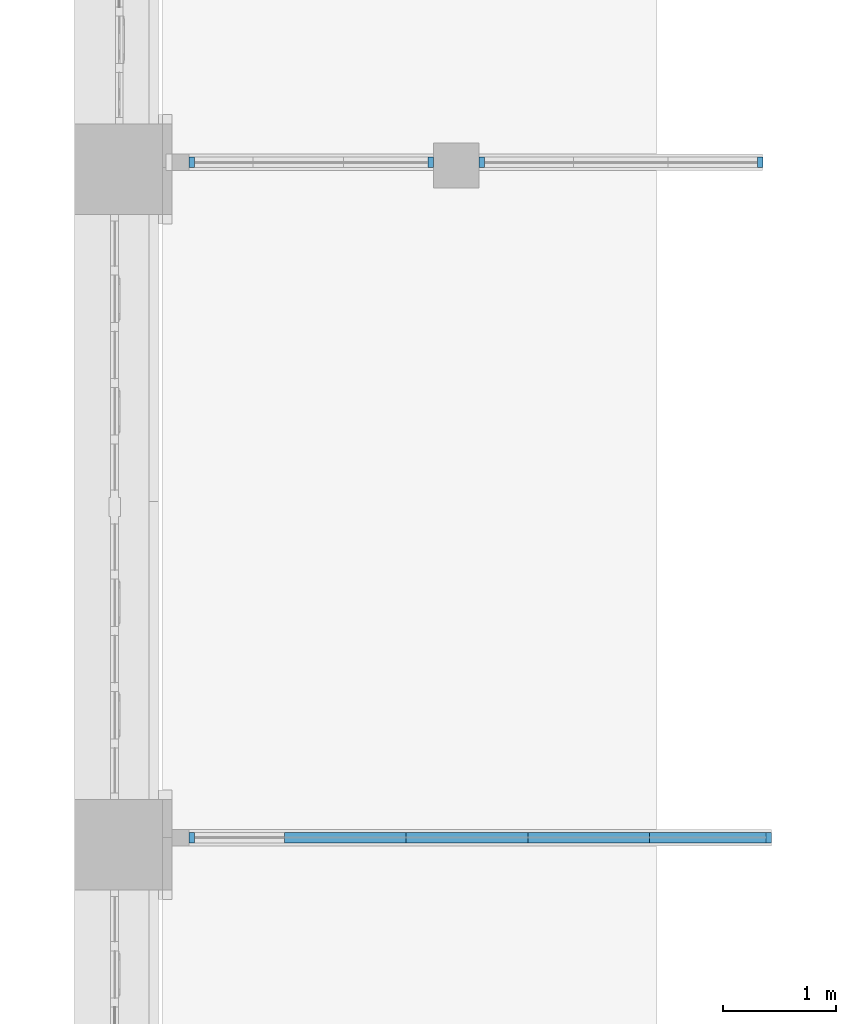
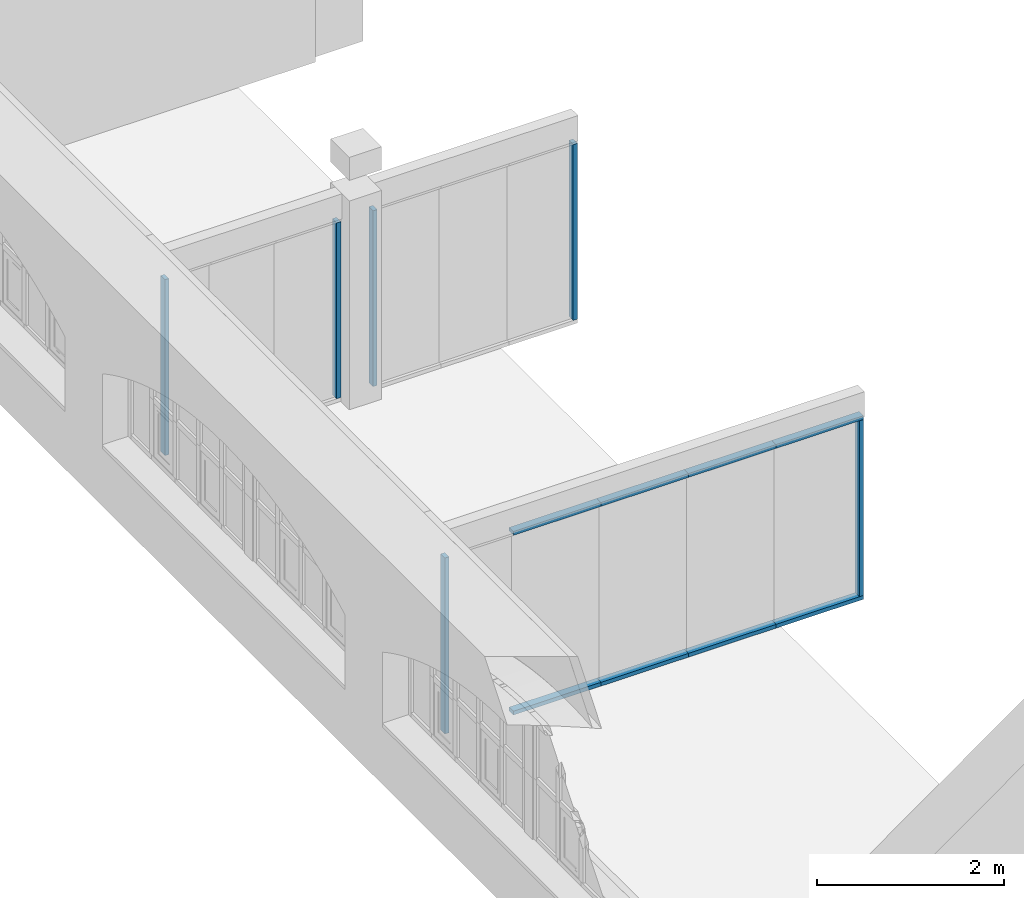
# One storey, part 3 of 32: 14 members, 3 elements without a shape of their own.
"""IFC2X3 building model written with IfcOpenShell, lengths in millimetres."""

from ifc_helpers import new_model, entity, si_unit, converted_unit, derived_unit, direction, frame, frame_2d, origin, origin_2d_with_axis, place, context, subcontext, project, spatial, rectangle, extrude, source, transform, mapped, material, type_object, type_shapes, element, aggregate, save


model = new_model("IFC2X3")

# Units and contexts
model_context = context("Model", 3, precision=0.01, world=origin(), true_north=direction((6.123031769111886e-17, 1.0)))
body_context = subcontext(model_context, "Body", "Model", "MODEL_VIEW")
ifc_project = project(units=[si_unit("LENGTHUNIT", "METRE", prefix="MILLI"), si_unit("AREAUNIT", "SQUARE_METRE"), si_unit("VOLUMEUNIT", "CUBIC_METRE"), converted_unit("PLANEANGLEUNIT", "DEGREE", entity("IfcPlaneAngleMeasure", 0.017453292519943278), si_unit("PLANEANGLEUNIT", "RADIAN"), dimensions=[0, 0, 0, 0, 0, 0, 0]), si_unit("MASSUNIT", "GRAM", prefix="KILO"), derived_unit("MASSDENSITYUNIT", [(si_unit("MASSUNIT", "GRAM", prefix="KILO"), 1), (si_unit("LENGTHUNIT", "METRE"), -3)]), derived_unit("IONCONCENTRATIONUNIT", [(si_unit("MASSUNIT", "GRAM", prefix="KILO"), 1), (si_unit("LENGTHUNIT", "METRE"), -3)]), derived_unit("MOMENTOFINERTIAUNIT", [(si_unit("LENGTHUNIT", "METRE"), 4)]), si_unit("TIMEUNIT", "SECOND"), si_unit("FREQUENCYUNIT", "HERTZ"), si_unit("THERMODYNAMICTEMPERATUREUNIT", "DEGREE_CELSIUS"), derived_unit("THERMALTRANSMITTANCEUNIT", [(si_unit("MASSUNIT", "GRAM", prefix="KILO"), 1), (si_unit("THERMODYNAMICTEMPERATUREUNIT", "KELVIN"), -1), (si_unit("TIMEUNIT", "SECOND"), -3)]), derived_unit("THERMALCONDUCTANCEUNIT", [(si_unit("MASSUNIT", "GRAM", prefix="KILO"), 1), (si_unit("THERMODYNAMICTEMPERATUREUNIT", "KELVIN"), -1), (si_unit("TIMEUNIT", "SECOND"), -3), (si_unit("LENGTHUNIT", "METRE"), 1)]), derived_unit("VOLUMETRICFLOWRATEUNIT", [(si_unit("LENGTHUNIT", "METRE", prefix="DECI"), 3), (si_unit("TIMEUNIT", "SECOND"), -1)]), derived_unit("MASSFLOWRATEUNIT", [(si_unit("MASSUNIT", "GRAM", prefix="KILO"), 1), (si_unit("TIMEUNIT", "SECOND"), -1)]), derived_unit("ROTATIONALFREQUENCYUNIT", [(si_unit("TIMEUNIT", "SECOND"), -1)]), si_unit("ELECTRICCURRENTUNIT", "AMPERE"), si_unit("ELECTRICVOLTAGEUNIT", "VOLT"), si_unit("POWERUNIT", "WATT"), si_unit("FORCEUNIT", "NEWTON", prefix="KILO"), si_unit("ILLUMINANCEUNIT", "LUX"), si_unit("LUMINOUSFLUXUNIT", "LUMEN"), si_unit("LUMINOUSINTENSITYUNIT", "CANDELA"), si_unit("ENERGYUNIT", "JOULE"), derived_unit("USERDEFINED", [(si_unit("MASSUNIT", "GRAM", prefix="KILO"), -1), (si_unit("LENGTHUNIT", "METRE"), -2), (si_unit("TIMEUNIT", "SECOND"), 3), (si_unit("LUMINOUSFLUXUNIT", "LUMEN"), 1)]), derived_unit("USERDEFINED", [(si_unit("MASSUNIT", "GRAM", prefix="KILO"), 1), (si_unit("TIMEUNIT", "SECOND"), -3), (si_unit("LENGTHUNIT", "METRE"), 3), (si_unit("ELECTRICCURRENTUNIT", "AMPERE"), -2)]), derived_unit("SOUNDPOWERUNIT", [(si_unit("MASSUNIT", "GRAM", prefix="KILO"), 1), (si_unit("TIMEUNIT", "SECOND"), -3), (si_unit("LENGTHUNIT", "METRE"), 2)]), derived_unit("SOUNDPRESSUREUNIT", [(si_unit("MASSUNIT", "GRAM", prefix="KILO"), 1), (si_unit("LENGTHUNIT", "METRE"), -1), (si_unit("TIMEUNIT", "SECOND"), -2)]), derived_unit("LINEARVELOCITYUNIT", [(si_unit("LENGTHUNIT", "METRE"), 1), (si_unit("TIMEUNIT", "SECOND"), -1)]), si_unit("PRESSUREUNIT", "PASCAL"), derived_unit("USERDEFINED", [(si_unit("MASSUNIT", "GRAM", prefix="KILO"), 1), (si_unit("LENGTHUNIT", "METRE"), -2), (si_unit("TIMEUNIT", "SECOND"), -2)]), derived_unit("LINEARFORCEUNIT", [(si_unit("MASSUNIT", "GRAM", prefix="KILO"), 1), (si_unit("TIMEUNIT", "SECOND"), -2)]), derived_unit("PLANARFORCEUNIT", [(si_unit("MASSUNIT", "GRAM", prefix="KILO"), 1), (si_unit("LENGTHUNIT", "METRE"), -1), (si_unit("TIMEUNIT", "SECOND"), -2)]), derived_unit("SPECIFICHEATCAPACITYUNIT", [(si_unit("THERMODYNAMICTEMPERATUREUNIT", "KELVIN"), -1), (si_unit("LENGTHUNIT", "METRE"), 2), (si_unit("TIMEUNIT", "SECOND"), -2)]), derived_unit("HEATFLUXDENSITYUNIT", [(si_unit("MASSUNIT", "GRAM", prefix="KILO"), 1), (si_unit("TIMEUNIT", "SECOND"), -3)]), derived_unit("HEATINGVALUEUNIT", [(si_unit("LENGTHUNIT", "METRE"), 2), (si_unit("TIMEUNIT", "SECOND"), -2)]), derived_unit("VAPORPERMEABILITYUNIT", [(si_unit("LENGTHUNIT", "METRE"), -1), (si_unit("TIMEUNIT", "SECOND"), 1)]), derived_unit("DYNAMICVISCOSITYUNIT", [(si_unit("MASSUNIT", "GRAM", prefix="KILO"), 1), (si_unit("TIMEUNIT", "SECOND"), -1), (si_unit("LENGTHUNIT", "METRE"), -1)]), derived_unit("THERMALEXPANSIONCOEFFICIENTUNIT", [(si_unit("THERMODYNAMICTEMPERATUREUNIT", "KELVIN"), -1)]), derived_unit("MODULUSOFELASTICITYUNIT", [(si_unit("MASSUNIT", "GRAM", prefix="KILO"), 1), (si_unit("LENGTHUNIT", "METRE"), -1), (si_unit("TIMEUNIT", "SECOND"), -2)]), derived_unit("ISOTHERMALMOISTURECAPACITYUNIT", [(si_unit("MASSUNIT", "GRAM", prefix="KILO"), -1), (si_unit("LENGTHUNIT", "METRE"), 3)]), derived_unit("MOISTUREDIFFUSIVITYUNIT", [(si_unit("TIMEUNIT", "SECOND"), -1), (si_unit("LENGTHUNIT", "METRE"), 2)]), derived_unit("MASSPERLENGTHUNIT", [(si_unit("MASSUNIT", "GRAM", prefix="KILO"), 1), (si_unit("LENGTHUNIT", "METRE"), -1)]), derived_unit("THERMALRESISTANCEUNIT", [(si_unit("MASSUNIT", "GRAM", prefix="KILO"), -1), (si_unit("TIMEUNIT", "SECOND"), 3), (si_unit("THERMODYNAMICTEMPERATUREUNIT", "KELVIN"), 1)]), derived_unit("ACCELERATIONUNIT", [(si_unit("LENGTHUNIT", "METRE"), 1), (si_unit("TIMEUNIT", "SECOND"), -2)]), derived_unit("ANGULARVELOCITYUNIT", [(si_unit("TIMEUNIT", "SECOND"), -1), (si_unit("PLANEANGLEUNIT", "RADIAN"), 1)]), derived_unit("LINEARSTIFFNESSUNIT", [(si_unit("MASSUNIT", "GRAM", prefix="KILO"), 1), (si_unit("TIMEUNIT", "SECOND"), -2)]), derived_unit("WARPINGCONSTANTUNIT", [(si_unit("LENGTHUNIT", "METRE"), 6)]), derived_unit("LINEARMOMENTUNIT", [(si_unit("MASSUNIT", "GRAM", prefix="KILO"), 1), (si_unit("LENGTHUNIT", "METRE"), 1), (si_unit("TIMEUNIT", "SECOND"), -2)]), derived_unit("TORQUEUNIT", [(si_unit("MASSUNIT", "GRAM", prefix="KILO"), 1), (si_unit("LENGTHUNIT", "METRE"), 2), (si_unit("TIMEUNIT", "SECOND"), -2)])], contexts=[model_context])

# Site, building, storey
site_placement = place(None, origin())
site = spatial("IfcSite", under=ifc_project, at=site_placement, Name="Default", CompositionType="ELEMENT")
building_placement = place(site_placement, origin())
building = spatial("IfcBuilding", under=site, at=building_placement, Name="Eesti Rahvusraamatukogu hoone renoveerimise projekteerimistööd", CompositionType="ELEMENT")
storey_placement = place(building_placement, frame((0.0, 0.0, 4950.000000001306)))
storey = spatial("IfcBuildingStorey", under=building, at=storey_placement, Name="2. korrus", CompositionType="ELEMENT", Elevation=4950.000000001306)

# Curtain wall, member
curtain_wall_type = type_object("IfcCurtainWallType", Name="Curtain Wall:VLS Klaasvahesein profiilita 38db", PredefinedType="NOTDEFINED")
curtain_wall_1_placement = place(storey_placement, frame((0.0, 0.0, -4950.000000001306)))
curtain_wall_1 = element("IfcCurtainWall", 1, at=curtain_wall_1_placement, inside=storey, type_object=curtain_wall_type, Name="Curtain Wall:VLS Klaasvahesein profiilita 38db", ObjectType="Curtain Wall:VLS Klaasvahesein profiilita 38db")
ifc_material = material(Name="Aluminum")
member_type_1 = type_object("IfcMemberType", Name="Rectangular Mullion:50mm x 92mm", PredefinedType="MULLION", material=ifc_material)
shared_shape_1 = source(origin(), body_context, "Body", "SweptSolid", [
    extrude(rectangle(XDim=50.0, YDim=92.0, at=origin_2d_with_axis()), frame((-25.0, 0.0, -2300.0), z_axis=(0.0, 0.0, 1.0), x_axis=(-1.0, 0.0, 0.0)), (0.0, 0.0, 1.0), 2300.0),
])
type_shapes(member_type_1, [shared_shape_1])
member_1_placement = place(curtain_wall_1_placement, frame((-35765.50000000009, 42420.0, 7300.0), z_axis=(0.0, 0.0, 1.0), x_axis=(-1.0, 0.0, 0.0)))
member_1 = element("IfcMember", 2, at=member_1_placement, type_object=member_type_1, material=ifc_material, Name="Rectangular Mullion:50mm x 92mm", ObjectType="Rectangular Mullion:50mm x 92mm", context=body_context, shape_type="MappedRepresentation", body=[
    mapped(shared_shape_1, transform((0.0, 0.0, 0.0), scale=1.0)),
])

curtain_wall_2_placement = place(storey_placement, frame((0.0, 0.0, -4950.000000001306)))
curtain_wall_2 = element("IfcCurtainWall", 3, at=curtain_wall_2_placement, inside=storey, type_object=curtain_wall_type, Name="Curtain Wall:VLS Klaasvahesein profiilita 38db", ObjectType="Curtain Wall:VLS Klaasvahesein profiilita 38db")
member_2_placement = place(curtain_wall_2_placement, frame((-33190.0, 42420.0, 7300.0), z_axis=(0.0, 0.0, 1.0), x_axis=(-1.0, 0.0, 0.0)))
member_2 = element("IfcMember", 4, at=member_2_placement, type_object=member_type_1, material=ifc_material, Name="Rectangular Mullion:50mm x 92mm", ObjectType="Rectangular Mullion:50mm x 92mm", context=body_context, shape_type="MappedRepresentation", body=[
    mapped(shared_shape_1, transform((0.0, 0.0, 0.0), scale=1.0)),
])

curtain_wall_3_placement = place(storey_placement, frame((0.0, 0.0, -4950.000000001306)))
curtain_wall_3 = element("IfcCurtainWall", 5, at=curtain_wall_3_placement, inside=storey, type_object=curtain_wall_type, Name="Curtain Wall:VLS Klaasvahesein profiilita 38db", ObjectType="Curtain Wall:VLS Klaasvahesein profiilita 38db")
member_3_placement = place(curtain_wall_3_placement, frame((-35765.49999999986, 36420.0, 7300.0), z_axis=(0.0, 0.0, 1.0), x_axis=(-1.0, 0.0, 0.0)))
member_3 = element("IfcMember", 6, at=member_3_placement, type_object=member_type_1, material=ifc_material, Name="Rectangular Mullion:50mm x 92mm", ObjectType="Rectangular Mullion:50mm x 92mm", context=body_context, shape_type="MappedRepresentation", body=[
    mapped(shared_shape_1, transform((0.0, 0.0, 0.0), scale=1.0)),
])

# Member
member_type_2 = type_object("IfcMemberType", Name="Rectangular Mullion:50mm x 92mm", PredefinedType="MULLION", material=ifc_material)
shared_shape_2 = source(origin(), body_context, "Body", "SweptSolid", [
    extrude(rectangle(XDim=50.0, YDim=92.0, at=origin_2d_with_axis()), frame((-25.0, 0.0, -2300.0), z_axis=(0.0, 0.0, 1.0), x_axis=(-1.0, 0.0, 0.0)), (0.0, 0.0, 1.0), 2300.0),
])
type_shapes(member_type_2, [shared_shape_2])
member_4_placement = place(curtain_wall_1_placement, frame((-33590.0, 42420.0, 5000.0), z_axis=(0.0, 0.0, -1.0), x_axis=(1.0, 0.0, 0.0)))
member_4 = element("IfcMember", 7, at=member_4_placement, type_object=member_type_2, material=ifc_material, Name="Rectangular Mullion:50mm x 92mm", ObjectType="Rectangular Mullion:50mm x 92mm", context=body_context, shape_type="MappedRepresentation", body=[
    mapped(shared_shape_2, transform((0.0, 0.0, 0.0), scale=1.0)),
])

aggregate(curtain_wall_1, [member_4, member_1])

member_5_placement = place(curtain_wall_2_placement, frame((-30664.749999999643, 42420.0, 5000.0), z_axis=(0.0, 0.0, -1.0), x_axis=(1.0, 0.0, 0.0)))
member_5 = element("IfcMember", 8, at=member_5_placement, type_object=member_type_2, material=ifc_material, Name="Rectangular Mullion:50mm x 92mm", ObjectType="Rectangular Mullion:50mm x 92mm", context=body_context, shape_type="MappedRepresentation", body=[
    mapped(shared_shape_2, transform((0.0, 0.0, 0.0), scale=1.0)),
])

aggregate(curtain_wall_2, [member_5, member_2])

member_6_placement = place(curtain_wall_3_placement, frame((-30590.0, 36420.0, 5000.0), z_axis=(0.0, 0.0, -1.0), x_axis=(1.0, 0.0, 0.0)))
member_6 = element("IfcMember", 9, at=member_6_placement, type_object=member_type_2, material=ifc_material, Name="Rectangular Mullion:50mm x 92mm", ObjectType="Rectangular Mullion:50mm x 92mm", context=body_context, shape_type="MappedRepresentation", body=[
    mapped(shared_shape_2, transform((0.0, 0.0, 0.0), scale=1.0)),
])

member_type_3 = type_object("IfcMemberType", Name="Rectangular Mullion:50mm x 92mm", PredefinedType="MULLION", material=ifc_material)
shared_shape_3 = source(origin(), body_context, "Body", "SweptSolid", [
    extrude(rectangle(XDim=50.0, YDim=92.0, at=frame_2d((0.0, 3.552713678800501e-15), x_axis=(1.0, 0.0))), frame((-25.0, 0.0, -1082.000000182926), z_axis=(0.0, 0.0, 1.0), x_axis=(-1.0, 0.0, 0.0)), (0.0, 0.0, 1.0), 1082.0000001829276),
])
type_shapes(member_type_3, [shared_shape_3])
member_7_placement = place(curtain_wall_3_placement, frame((-30590.0, 36420.0, 7350.0), z_axis=(1.0, 0.0, 0.0), x_axis=(0.0, 0.0, 1.0)))
member_7 = element("IfcMember", 10, at=member_7_placement, type_object=member_type_3, material=ifc_material, Name="Rectangular Mullion:50mm x 92mm", ObjectType="Rectangular Mullion:50mm x 92mm", context=body_context, shape_type="MappedRepresentation", body=[
    mapped(shared_shape_3, transform((0.0, 0.0, 0.0), scale=1.0)),
])

member_type_4 = type_object("IfcMemberType", Name="Rectangular Mullion:50mm x 92mm", PredefinedType="MULLION", material=ifc_material)
shared_shape_4 = source(origin(), body_context, "Body", "SweptSolid", [
    extrude(rectangle(XDim=50.0, YDim=92.0, at=frame_2d((0.0, 3.552713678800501e-15), x_axis=(1.0, 0.0))), frame((-25.0, 0.0, -1081.9999998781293), z_axis=(0.0, 0.0, 1.0), x_axis=(-1.0, 0.0, 0.0)), (0.0, 0.0, 1.0), 1081.9999998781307),
])
type_shapes(member_type_4, [shared_shape_4])
member_8_placement = place(curtain_wall_3_placement, frame((-33835.999999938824, 36420.0, 7350.0), z_axis=(1.0, 0.0, 0.0), x_axis=(0.0, 0.0, 1.0)))
member_8 = element("IfcMember", 11, at=member_8_placement, type_object=member_type_4, material=ifc_material, Name="Rectangular Mullion:50mm x 92mm", ObjectType="Rectangular Mullion:50mm x 92mm", context=body_context, shape_type="MappedRepresentation", body=[
    mapped(shared_shape_4, transform((0.0, 0.0, 0.0), scale=1.0)),
])

member_9_placement = place(curtain_wall_3_placement, frame((-32754.000000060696, 36420.0, 7350.0), z_axis=(1.0, 0.0, 0.0), x_axis=(0.0, 0.0, 1.0)))
member_9 = element("IfcMember", 12, at=member_9_placement, type_object=member_type_4, material=ifc_material, Name="Rectangular Mullion:50mm x 92mm", ObjectType="Rectangular Mullion:50mm x 92mm", context=body_context, shape_type="MappedRepresentation", body=[
    mapped(shared_shape_4, transform((0.0, 0.0, 0.0), scale=1.0)),
])

member_10_placement = place(curtain_wall_3_placement, frame((-31672.00000018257, 36420.0, 7350.0), z_axis=(1.0, 0.0, 0.0), x_axis=(0.0, 0.0, 1.0)))
member_10 = element("IfcMember", 13, at=member_10_placement, type_object=member_type_4, material=ifc_material, Name="Rectangular Mullion:50mm x 92mm", ObjectType="Rectangular Mullion:50mm x 92mm", context=body_context, shape_type="MappedRepresentation", body=[
    mapped(shared_shape_4, transform((0.0, 0.0, 0.0), scale=1.0)),
])

member_type_5 = type_object("IfcMemberType", Name="Rectangular Mullion:50mm x 92mm", PredefinedType="MULLION", material=ifc_material)
shared_shape_5 = source(origin(), body_context, "Body", "SweptSolid", [
    extrude(rectangle(XDim=50.0, YDim=92.0, at=frame_2d((0.0, 3.552713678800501e-15), x_axis=(1.0, 0.0))), frame((-25.0, 0.0, -1081.9999998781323), z_axis=(0.0, 0.0, 1.0), x_axis=(-1.0, 0.0, 0.0)), (0.0, 0.0, 1.0), 1081.9999998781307),
])
type_shapes(member_type_5, [shared_shape_5])
member_11_placement = place(curtain_wall_3_placement, frame((-34917.99999981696, 36420.0, 4950.0), z_axis=(-1.0, 0.0, 0.0), x_axis=(0.0, 0.0, -1.0)))
member_11 = element("IfcMember", 14, at=member_11_placement, type_object=member_type_5, material=ifc_material, Name="Rectangular Mullion:50mm x 92mm", ObjectType="Rectangular Mullion:50mm x 92mm", context=body_context, shape_type="MappedRepresentation", body=[
    mapped(shared_shape_5, transform((0.0, 0.0, 0.0), scale=1.0)),
])

member_12_placement = place(curtain_wall_3_placement, frame((-33835.999999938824, 36420.0, 4950.0), z_axis=(-1.0, 0.0, 0.0), x_axis=(0.0, 0.0, -1.0)))
member_12 = element("IfcMember", 15, at=member_12_placement, type_object=member_type_5, material=ifc_material, Name="Rectangular Mullion:50mm x 92mm", ObjectType="Rectangular Mullion:50mm x 92mm", context=body_context, shape_type="MappedRepresentation", body=[
    mapped(shared_shape_5, transform((0.0, 0.0, 0.0), scale=1.0)),
])

member_13_placement = place(curtain_wall_3_placement, frame((-32754.000000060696, 36420.0, 4950.0), z_axis=(-1.0, 0.0, 0.0), x_axis=(0.0, 0.0, -1.0)))
member_13 = element("IfcMember", 16, at=member_13_placement, type_object=member_type_5, material=ifc_material, Name="Rectangular Mullion:50mm x 92mm", ObjectType="Rectangular Mullion:50mm x 92mm", context=body_context, shape_type="MappedRepresentation", body=[
    mapped(shared_shape_5, transform((0.0, 0.0, 0.0), scale=1.0)),
])

member_type_6 = type_object("IfcMemberType", Name="Rectangular Mullion:50mm x 92mm", PredefinedType="MULLION", material=ifc_material)
shared_shape_6 = source(origin(), body_context, "Body", "SweptSolid", [
    extrude(rectangle(XDim=50.0, YDim=92.0, at=frame_2d((0.0, 3.552713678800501e-15), x_axis=(1.0, 0.0))), frame((-25.0, 0.0, -1082.000000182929), z_axis=(0.0, 0.0, 1.0), x_axis=(-1.0, 0.0, 0.0)), (0.0, 0.0, 1.0), 1082.0000001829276),
])
type_shapes(member_type_6, [shared_shape_6])
member_14_placement = place(curtain_wall_3_placement, frame((-31672.00000018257, 36420.0, 4950.0), z_axis=(-1.0, 0.0, 0.0), x_axis=(0.0, 0.0, -1.0)))
member_14 = element("IfcMember", 17, at=member_14_placement, type_object=member_type_6, material=ifc_material, Name="Rectangular Mullion:50mm x 92mm", ObjectType="Rectangular Mullion:50mm x 92mm", context=body_context, shape_type="MappedRepresentation", body=[
    mapped(shared_shape_6, transform((0.0, 0.0, 0.0), scale=1.0)),
])

aggregate(curtain_wall_3, [member_7, member_8, member_9, member_10, member_11, member_12, member_13, member_14, member_6, member_3])

save(model, "model.ifc")
